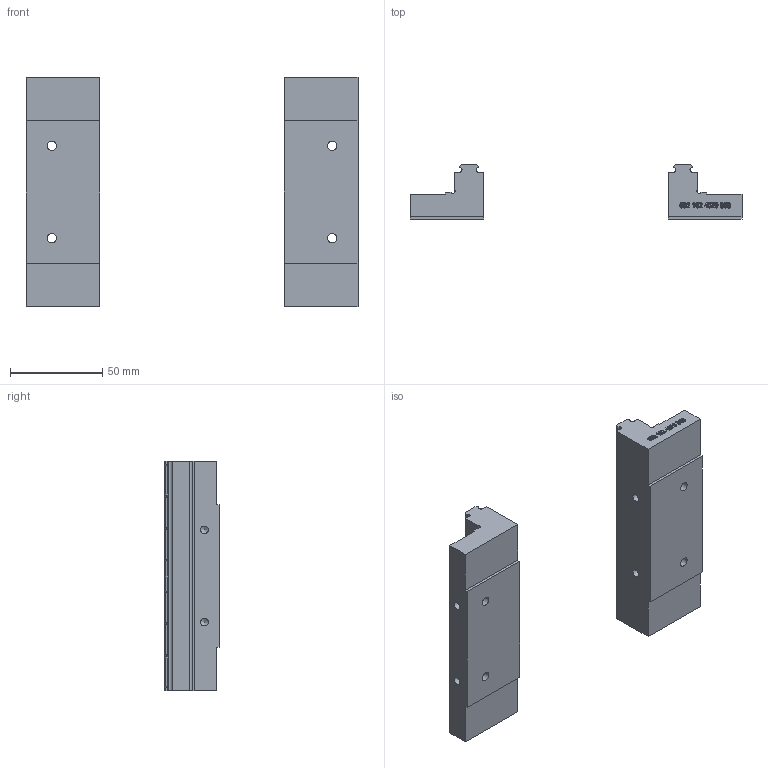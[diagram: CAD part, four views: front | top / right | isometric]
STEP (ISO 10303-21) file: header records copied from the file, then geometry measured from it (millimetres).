
FILE_DESCRIPTION (( 'STEP AP214' ), '1' );
FILE_NAME ('3D-6921624010031.STEP', '2023-12-04T09:18:32', ( '' ), ( '' ), 'SwSTEP 2.0', 'SolidWorks 2021', '' );
FILE_SCHEMA (( 'AUTOMOTIVE_DESIGN' ));
Length unit declared in the file: millimetre
Products named in the file (3): 3D-6921624010031; 3D-6921624020000; 3D-6921624010000
Assembly tree (2 placements, depth 2):
  3D-6921624010031
    3D-6921624010000
    3D-6921624020000
Bounding box: 180 x 29.5 x 124.4 mm (x, y, z)
Volume: 183329.8 mm3; surface area: 39676.5 mm2
Topology: 2 solids, 2 shells, 535 faces, 1444 edges, 958 vertices
Faces by surface type: plane 238, bspline 203, cylinder 82, cone 12
Full cylindrical faces by diameter (mm): 4.2 x8, 5 x4
Entity records: 28546 total; most frequent: CARTESIAN_POINT 16681, ORIENTED_EDGE 2816, DIRECTION 1588, EDGE_CURVE 1408, VERTEX_POINT 946, LINE 834, VECTOR 834, EDGE_LOOP 612
